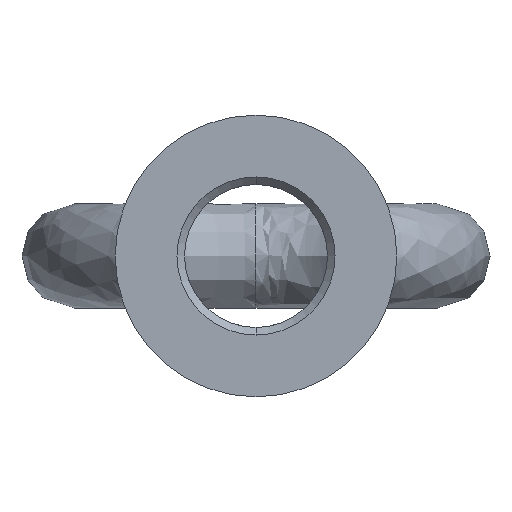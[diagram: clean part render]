
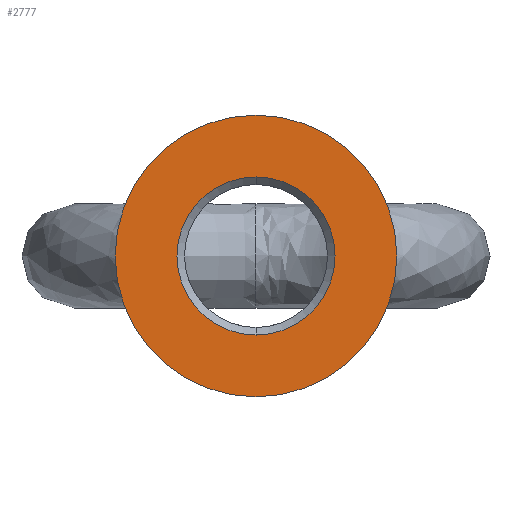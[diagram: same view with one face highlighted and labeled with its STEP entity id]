
A CAD part, front view. The second image highlights one B-rep face of the part: STEP entity #2777.
In plain terms, the highlighted planar face has unit normal (0, -1, 0).
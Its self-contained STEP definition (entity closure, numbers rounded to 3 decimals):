
#27 = AXIS2_PLACEMENT_3D ( 'NONE', #2119, #2677, #1390 ) ;
#82 = CIRCLE ( 'NONE', #1308, 32.5 ) ;
#137 = AXIS2_PLACEMENT_3D ( 'NONE', #778, #497, #2581 ) ;
#230 = PLANE ( 'NONE',  #137 ) ;
#259 = EDGE_LOOP ( 'NONE', ( #1387, #1287 ) ) ;
#262 = EDGE_CURVE ( 'NONE', #2096, #1569, #555, .T. ) ;
#438 = CARTESIAN_POINT ( 'NONE',  ( 0., 0., 0. ) ) ;
#497 = DIRECTION ( 'NONE',  ( 0., -1., 0. ) ) ;
#555 = CIRCLE ( 'NONE', #828, 32.5 ) ;
#601 = CARTESIAN_POINT ( 'NONE',  ( 0., 0., 0. ) ) ;
#615 = AXIS2_PLACEMENT_3D ( 'NONE', #1137, #2151, #1084 ) ;
#633 = EDGE_CURVE ( 'NONE', #1569, #2096, #82, .T. ) ;
#778 = CARTESIAN_POINT ( 'NONE',  ( 0., 0., 0. ) ) ;
#828 = AXIS2_PLACEMENT_3D ( 'NONE', #601, #1640, #2153 ) ;
#1069 = ORIENTED_EDGE ( 'NONE', *, *, #2034, .T. ) ;
#1082 = ORIENTED_EDGE ( 'NONE', *, *, #2438, .T. ) ;
#1084 = DIRECTION ( 'NONE',  ( 0., 0., -1. ) ) ;
#1137 = CARTESIAN_POINT ( 'NONE',  ( 0., 0., 0. ) ) ;
#1287 = ORIENTED_EDGE ( 'NONE', *, *, #262, .F. ) ;
#1308 = AXIS2_PLACEMENT_3D ( 'NONE', #438, #1460, #1624 ) ;
#1315 = FACE_BOUND ( 'NONE', #1516, .T. ) ;
#1387 = ORIENTED_EDGE ( 'NONE', *, *, #633, .F. ) ;
#1390 = DIRECTION ( 'NONE',  ( 0., 0., -1. ) ) ;
#1396 = CARTESIAN_POINT ( 'NONE',  ( 0., 0., 32.5 ) ) ;
#1460 = DIRECTION ( 'NONE',  ( 0., 1., 0. ) ) ;
#1516 = EDGE_LOOP ( 'NONE', ( #1069, #1082 ) ) ;
#1569 = VERTEX_POINT ( 'NONE', #1575 ) ;
#1575 = CARTESIAN_POINT ( 'NONE',  ( 0., 0., -32.5 ) ) ;
#1624 = DIRECTION ( 'NONE',  ( 0., 0., 1. ) ) ;
#1640 = DIRECTION ( 'NONE',  ( 0., 1., 0. ) ) ;
#2034 = EDGE_CURVE ( 'NONE', #3098, #2321, #2966, .T. ) ;
#2055 = FACE_OUTER_BOUND ( 'NONE', #259, .T. ) ;
#2096 = VERTEX_POINT ( 'NONE', #1396 ) ;
#2119 = CARTESIAN_POINT ( 'NONE',  ( 0., 0., 0. ) ) ;
#2151 = DIRECTION ( 'NONE',  ( 0., 1., 0. ) ) ;
#2153 = DIRECTION ( 'NONE',  ( 0., 0., 1. ) ) ;
#2321 = VERTEX_POINT ( 'NONE', #2944 ) ;
#2438 = EDGE_CURVE ( 'NONE', #2321, #3098, #3121, .T. ) ;
#2581 = DIRECTION ( 'NONE',  ( 0., 0., -1. ) ) ;
#2677 = DIRECTION ( 'NONE',  ( 0., 1., 0. ) ) ;
#2777 = ADVANCED_FACE ( 'NONE', ( #1315, #2055 ), #230, .T. ) ;
#2944 = CARTESIAN_POINT ( 'NONE',  ( 0., 0., 18.25 ) ) ;
#2957 = CARTESIAN_POINT ( 'NONE',  ( 0., 0., -18.25 ) ) ;
#2966 = CIRCLE ( 'NONE', #27, 18.25 ) ;
#3098 = VERTEX_POINT ( 'NONE', #2957 ) ;
#3121 = CIRCLE ( 'NONE', #615, 18.25 ) ;
